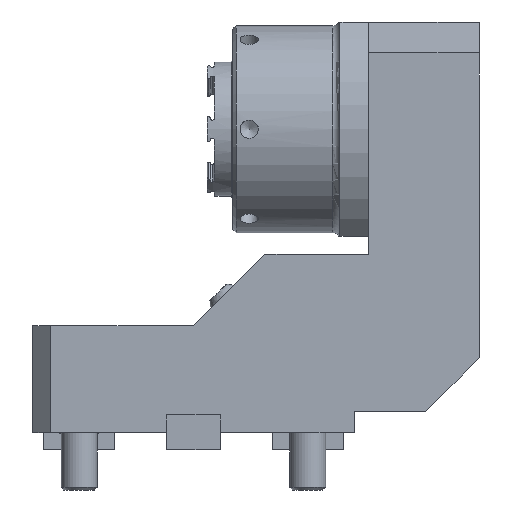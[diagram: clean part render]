
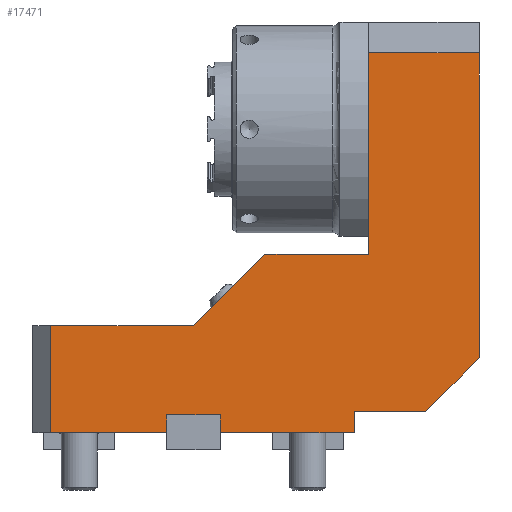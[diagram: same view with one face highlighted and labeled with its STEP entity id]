
A CAD part, front view. The second image highlights one B-rep face of the part: STEP entity #17471.
In plain terms, the highlighted planar face has unit normal (0, -1, 0).
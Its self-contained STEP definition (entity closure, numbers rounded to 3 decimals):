
#8174=ORIENTED_EDGE('',*,*,#11030,.T.);
#8175=ORIENTED_EDGE('',*,*,#11031,.T.);
#8176=ORIENTED_EDGE('',*,*,#11032,.T.);
#8177=ORIENTED_EDGE('',*,*,#11033,.T.);
#8178=ORIENTED_EDGE('',*,*,#11034,.T.);
#8179=ORIENTED_EDGE('',*,*,#11035,.T.);
#8180=ORIENTED_EDGE('',*,*,#11036,.T.);
#8181=ORIENTED_EDGE('',*,*,#11037,.T.);
#8182=ORIENTED_EDGE('',*,*,#11038,.T.);
#8183=ORIENTED_EDGE('',*,*,#11039,.T.);
#8184=ORIENTED_EDGE('',*,*,#11040,.T.);
#8185=ORIENTED_EDGE('',*,*,#11041,.T.);
#8186=ORIENTED_EDGE('',*,*,#11042,.T.);
#8187=ORIENTED_EDGE('',*,*,#11043,.T.);
#8188=ORIENTED_EDGE('',*,*,#11044,.T.);
#8189=ORIENTED_EDGE('',*,*,#11023,.T.);
#8190=ORIENTED_EDGE('',*,*,#11045,.T.);
#9627=VECTOR('',#12664,1.);
#9632=VECTOR('',#12675,1.);
#9633=VECTOR('',#12676,1.);
#9634=VECTOR('',#12677,1.);
#9635=VECTOR('',#12678,1.);
#9636=VECTOR('',#12679,1.);
#9637=VECTOR('',#12680,1.);
#9638=VECTOR('',#12681,1.);
#9639=VECTOR('',#12682,1.);
#9640=VECTOR('',#12683,1.);
#9641=VECTOR('',#12684,1.);
#9642=VECTOR('',#12685,1.);
#9643=VECTOR('',#12686,1.);
#9644=VECTOR('',#12687,1.);
#9645=VECTOR('',#12688,1.);
#9646=VECTOR('',#12689,1.);
#9647=VECTOR('',#12690,1.);
#10046=LINE('',#14199,#9627);
#10051=LINE('',#14213,#9632);
#10052=LINE('',#14215,#9633);
#10053=LINE('',#14217,#9634);
#10054=LINE('',#14219,#9635);
#10055=LINE('',#14221,#9636);
#10056=LINE('',#14223,#9637);
#10057=LINE('',#14225,#9638);
#10058=LINE('',#14227,#9639);
#10059=LINE('',#14229,#9640);
#10060=LINE('',#14231,#9641);
#10061=LINE('',#14233,#9642);
#10062=LINE('',#14235,#9643);
#10063=LINE('',#14237,#9644);
#10064=LINE('',#14239,#9645);
#10065=LINE('',#14240,#9646);
#10066=LINE('',#14241,#9647);
#10470=VERTEX_POINT('',#14197);
#10471=VERTEX_POINT('',#14198);
#10476=VERTEX_POINT('',#14211);
#10477=VERTEX_POINT('',#14212);
#10478=VERTEX_POINT('',#14214);
#10479=VERTEX_POINT('',#14216);
#10480=VERTEX_POINT('',#14218);
#10481=VERTEX_POINT('',#14220);
#10482=VERTEX_POINT('',#14222);
#10483=VERTEX_POINT('',#14224);
#10484=VERTEX_POINT('',#14226);
#10485=VERTEX_POINT('',#14228);
#10486=VERTEX_POINT('',#14230);
#10487=VERTEX_POINT('',#14232);
#10488=VERTEX_POINT('',#14234);
#10489=VERTEX_POINT('',#14236);
#10490=VERTEX_POINT('',#14238);
#11023=EDGE_CURVE('',#10470,#10471,#10046,.T.);
#11030=EDGE_CURVE('',#10476,#10477,#10051,.T.);
#11031=EDGE_CURVE('',#10477,#10478,#10052,.T.);
#11032=EDGE_CURVE('',#10478,#10479,#10053,.T.);
#11033=EDGE_CURVE('',#10479,#10480,#10054,.T.);
#11034=EDGE_CURVE('',#10480,#10481,#10055,.T.);
#11035=EDGE_CURVE('',#10481,#10482,#10056,.T.);
#11036=EDGE_CURVE('',#10482,#10483,#10057,.T.);
#11037=EDGE_CURVE('',#10483,#10484,#10058,.T.);
#11038=EDGE_CURVE('',#10484,#10485,#10059,.T.);
#11039=EDGE_CURVE('',#10485,#10486,#10060,.T.);
#11040=EDGE_CURVE('',#10486,#10487,#10061,.T.);
#11041=EDGE_CURVE('',#10487,#10488,#10062,.T.);
#11042=EDGE_CURVE('',#10488,#10489,#10063,.T.);
#11043=EDGE_CURVE('',#10489,#10490,#10064,.T.);
#11044=EDGE_CURVE('',#10490,#10470,#10065,.T.);
#11045=EDGE_CURVE('',#10471,#10476,#10066,.T.);
#11727=EDGE_LOOP('',(#8174,#8175,#8176,#8177,#8178,#8179,#8180,#8181,#8182,
#8183,#8184,#8185,#8186,#8187,#8188,#8189,#8190));
#12138=FACE_BOUND('',#11727,.T.);
#12664=DIRECTION('',(-40.,0.,0.));
#12673=DIRECTION('',(0.,-1.,0.));
#12674=DIRECTION('',(-1.,0.,0.));
#12675=DIRECTION('',(32.211,0.,0.));
#12676=DIRECTION('',(0.289,0.,0.5));
#12677=DIRECTION('',(0.,0.,4.5));
#12678=DIRECTION('',(15.,0.,0.));
#12679=DIRECTION('',(0.,0.,-4.5));
#12680=DIRECTION('',(0.289,0.,-0.5));
#12681=DIRECTION('',(37.211,0.,0.));
#12682=DIRECTION('',(0.,0.,6.));
#12683=DIRECTION('',(20.,0.,0.));
#12684=DIRECTION('',(15.,0.,15.));
#12685=DIRECTION('',(0.,0.,85.34));
#12686=DIRECTION('',(-31.,0.,0.));
#12687=DIRECTION('',(0.,0.,-56.34));
#12688=DIRECTION('',(-29.,0.,0.));
#12689=DIRECTION('',(-20.,0.,-20.));
#12690=DIRECTION('',(0.,0.,-30.));
#14197=CARTESIAN_POINT('',(0.,-42.5,30.));
#14198=CARTESIAN_POINT('',(-40.,-42.5,30.));
#14199=CARTESIAN_POINT('',(0.,-42.5,30.));
#14210=CARTESIAN_POINT('',(49.,-42.5,106.34));
#14211=CARTESIAN_POINT('',(-40.,-42.5,0.));
#14212=CARTESIAN_POINT('',(-7.789,-42.5,0.));
#14213=CARTESIAN_POINT('',(-40.,-42.5,0.));
#14214=CARTESIAN_POINT('',(-7.5,-42.5,0.5));
#14215=CARTESIAN_POINT('',(-7.789,-42.5,0.));
#14216=CARTESIAN_POINT('',(-7.5,-42.5,5.));
#14217=CARTESIAN_POINT('',(-7.5,-42.5,0.5));
#14218=CARTESIAN_POINT('',(7.5,-42.5,5.));
#14219=CARTESIAN_POINT('',(-7.5,-42.5,5.));
#14220=CARTESIAN_POINT('',(7.5,-42.5,0.5));
#14221=CARTESIAN_POINT('',(7.5,-42.5,5.));
#14222=CARTESIAN_POINT('',(7.789,-42.5,0.));
#14223=CARTESIAN_POINT('',(7.5,-42.5,0.5));
#14224=CARTESIAN_POINT('',(45.,-42.5,0.));
#14225=CARTESIAN_POINT('',(7.789,-42.5,0.));
#14226=CARTESIAN_POINT('',(45.,-42.5,6.));
#14227=CARTESIAN_POINT('',(45.,-42.5,0.));
#14228=CARTESIAN_POINT('',(65.,-42.5,6.));
#14229=CARTESIAN_POINT('',(45.,-42.5,6.));
#14230=CARTESIAN_POINT('',(80.,-42.5,21.));
#14231=CARTESIAN_POINT('',(65.,-42.5,6.));
#14232=CARTESIAN_POINT('',(80.,-42.5,106.34));
#14233=CARTESIAN_POINT('',(80.,-42.5,21.));
#14234=CARTESIAN_POINT('',(49.,-42.5,106.34));
#14235=CARTESIAN_POINT('',(80.,-42.5,106.34));
#14236=CARTESIAN_POINT('',(49.,-42.5,50.));
#14237=CARTESIAN_POINT('',(49.,-42.5,106.34));
#14238=CARTESIAN_POINT('',(20.,-42.5,50.));
#14239=CARTESIAN_POINT('',(49.,-42.5,50.));
#14240=CARTESIAN_POINT('',(20.,-42.5,50.));
#14241=CARTESIAN_POINT('',(-40.,-42.5,30.));
#16742=AXIS2_PLACEMENT_3D('',#14210,#12673,#12674);
#17264=PLANE('',#16742);
#17471=ADVANCED_FACE('',(#12138),#17264,.T.);
